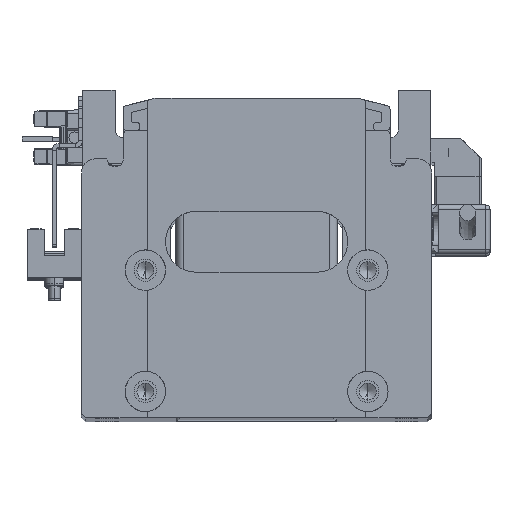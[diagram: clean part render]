
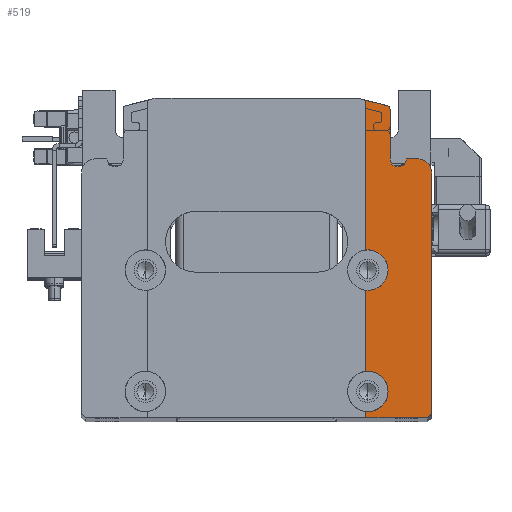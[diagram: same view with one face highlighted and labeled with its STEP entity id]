
A CAD part, top view. The second image highlights one B-rep face of the part: STEP entity #519.
In plain terms, the highlighted planar face has unit normal (0, 0, 1).
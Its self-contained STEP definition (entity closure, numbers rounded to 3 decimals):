
#58 = AXIS2_PLACEMENT_3D ( 'NONE', #4334, #8844, #48255 ) ;
#283 = EDGE_CURVE ( 'NONE', #11269, #33267, #20812, .T. ) ;
#519 = ADVANCED_FACE ( 'NONE', ( #33235 ), #15721, .F. ) ;
#633 = CARTESIAN_POINT ( 'NONE',  ( 43.3, -38.5, 12.5 ) ) ;
#1023 = DIRECTION ( 'NONE',  ( -1., 0., 0. ) ) ;
#1237 = VECTOR ( 'NONE', #45840, 1000. ) ;
#1294 = CARTESIAN_POINT ( 'NONE',  ( 32., 36.719, 12.5 ) ) ;
#1522 = DIRECTION ( 'NONE',  ( 0., -1., 0. ) ) ;
#1650 = DIRECTION ( 'NONE',  ( -1., 0., 0. ) ) ;
#1811 = ORIENTED_EDGE ( 'NONE', *, *, #34930, .T. ) ;
#1947 = EDGE_CURVE ( 'NONE', #22279, #42914, #5588, .T. ) ;
#2148 = VERTEX_POINT ( 'NONE', #43554 ) ;
#2240 = DIRECTION ( 'NONE',  ( -1., 0., 0. ) ) ;
#2391 = CARTESIAN_POINT ( 'NONE',  ( 32.5, -33., 12.5 ) ) ;
#2647 = CARTESIAN_POINT ( 'NONE',  ( 33., 36.719, 12.5 ) ) ;
#4020 = DIRECTION ( 'NONE',  ( -1., 0., 0. ) ) ;
#4110 = CARTESIAN_POINT ( 'NONE',  ( 27., 1.975, 12.5 ) ) ;
#4334 = CARTESIAN_POINT ( 'NONE',  ( 27.5, -33., 12.5 ) ) ;
#4340 = ORIENTED_EDGE ( 'NONE', *, *, #6725, .T. ) ;
#4563 = VERTEX_POINT ( 'NONE', #31346 ) ;
#4627 = LINE ( 'NONE', #49131, #15161 ) ;
#5392 = VERTEX_POINT ( 'NONE', #23417 ) ;
#5446 = ORIENTED_EDGE ( 'NONE', *, *, #10951, .T. ) ;
#5588 = CIRCLE ( 'NONE', #46323, 3.5 ) ;
#5861 = ORIENTED_EDGE ( 'NONE', *, *, #11873, .T. ) ;
#5972 = LINE ( 'NONE', #48731, #23322 ) ;
#6725 = EDGE_CURVE ( 'NONE', #47576, #38366, #37899, .T. ) ;
#6835 = LINE ( 'NONE', #18063, #1237 ) ;
#6996 = AXIS2_PLACEMENT_3D ( 'NONE', #11304, #27771, #4020 ) ;
#7586 = CARTESIAN_POINT ( 'NONE',  ( 26.243, 39.189, 12.5 ) ) ;
#7677 = AXIS2_PLACEMENT_3D ( 'NONE', #16063, #51466, #19491 ) ;
#8202 = CARTESIAN_POINT ( 'NONE',  ( 27., -7.975, 12.5 ) ) ;
#8306 = ORIENTED_EDGE ( 'NONE', *, *, #49246, .T. ) ;
#8844 = DIRECTION ( 'NONE',  ( 0., 0., -1. ) ) ;
#9078 = EDGE_CURVE ( 'NONE', #15879, #33977, #9756, .T. ) ;
#9756 = LINE ( 'NONE', #36135, #42107 ) ;
#9761 = CARTESIAN_POINT ( 'NONE',  ( 39.8, 21., 12.5 ) ) ;
#10045 = CARTESIAN_POINT ( 'NONE',  ( 27., 39.5, 12.5 ) ) ;
#10270 = EDGE_CURVE ( 'NONE', #15861, #11269, #31702, .T. ) ;
#10321 = EDGE_LOOP ( 'NONE', ( #5446, #28644, #33761, #19072, #42620, #19542, #44471, #23289, #47342, #4340, #5861, #1811, #17686, #8306, #37916, #32517, #36509 ) ) ;
#10951 = EDGE_CURVE ( 'NONE', #35365, #45240, #22998, .T. ) ;
#11220 = DIRECTION ( 'NONE',  ( 1., 0., 0. ) ) ;
#11269 = VERTEX_POINT ( 'NONE', #15478 ) ;
#11304 = CARTESIAN_POINT ( 'NONE',  ( 27.5, -3., 12.5 ) ) ;
#11749 = CARTESIAN_POINT ( 'NONE',  ( 43.3, -39.5, 12.5 ) ) ;
#11803 = VERTEX_POINT ( 'NONE', #50328 ) ;
#11873 = EDGE_CURVE ( 'NONE', #38366, #45787, #6835, .T. ) ;
#12341 = DIRECTION ( 'NONE',  ( 0., 0., -1. ) ) ;
#13147 = LINE ( 'NONE', #10045, #29263 ) ;
#13909 = AXIS2_PLACEMENT_3D ( 'NONE', #1294, #17311, #1650 ) ;
#13933 = EDGE_CURVE ( 'NONE', #2148, #35365, #16959, .T. ) ;
#14066 = DIRECTION ( 'NONE',  ( -1., 0., 0. ) ) ;
#15161 = VECTOR ( 'NONE', #1522, 1000. ) ;
#15478 = CARTESIAN_POINT ( 'NONE',  ( 32.5, -3., 12.5 ) ) ;
#15721 = PLANE ( 'NONE',  #44610 ) ;
#15861 = VERTEX_POINT ( 'NONE', #4110 ) ;
#15879 = VERTEX_POINT ( 'NONE', #47902 ) ;
#16063 = CARTESIAN_POINT ( 'NONE',  ( 27.5, -3., 12.5 ) ) ;
#16106 = DIRECTION ( 'NONE',  ( 0.707, 0.707, 0. ) ) ;
#16959 = CIRCLE ( 'NONE', #29108, 2. ) ;
#16982 = EDGE_CURVE ( 'NONE', #45240, #15879, #20991, .T. ) ;
#17311 = DIRECTION ( 'NONE',  ( 0., 0., 1. ) ) ;
#17686 = ORIENTED_EDGE ( 'NONE', *, *, #49157, .T. ) ;
#18063 = CARTESIAN_POINT ( 'NONE',  ( 27., 39.5, 12.5 ) ) ;
#19072 = ORIENTED_EDGE ( 'NONE', *, *, #46200, .T. ) ;
#19108 = CARTESIAN_POINT ( 'NONE',  ( 0., 24.5, 12.5 ) ) ;
#19491 = DIRECTION ( 'NONE',  ( -1., 0., 0. ) ) ;
#19542 = ORIENTED_EDGE ( 'NONE', *, *, #10270, .T. ) ;
#20545 = CARTESIAN_POINT ( 'NONE',  ( 33., 0., 12.5 ) ) ;
#20812 = CIRCLE ( 'NONE', #6996, 5. ) ;
#20991 = CIRCLE ( 'NONE', #13909, 1. ) ;
#22279 = VERTEX_POINT ( 'NONE', #45532 ) ;
#22757 = DIRECTION ( 'NONE',  ( -1., 0., 0. ) ) ;
#22907 = EDGE_CURVE ( 'NONE', #4563, #15861, #13147, .T. ) ;
#22998 = LINE ( 'NONE', #20545, #42330 ) ;
#23289 = ORIENTED_EDGE ( 'NONE', *, *, #44543, .T. ) ;
#23322 = VECTOR ( 'NONE', #32564, 1000. ) ;
#23417 = CARTESIAN_POINT ( 'NONE',  ( 42.3, -39.5, 12.5 ) ) ;
#23544 = VECTOR ( 'NONE', #11220, 1000. ) ;
#23999 = LINE ( 'NONE', #19108, #32741 ) ;
#24161 = AXIS2_PLACEMENT_3D ( 'NONE', #36951, #44812, #32963 ) ;
#24626 = CARTESIAN_POINT ( 'NONE',  ( 35., 24.5, 12.5 ) ) ;
#27771 = DIRECTION ( 'NONE',  ( 0., 0., -1. ) ) ;
#27844 = DIRECTION ( 'NONE',  ( -1., 0., 0. ) ) ;
#28070 = CARTESIAN_POINT ( 'NONE',  ( 39.8, 24.5, 12.5 ) ) ;
#28644 = ORIENTED_EDGE ( 'NONE', *, *, #16982, .T. ) ;
#28879 = VECTOR ( 'NONE', #16106, 1000. ) ;
#29108 = AXIS2_PLACEMENT_3D ( 'NONE', #24626, #12341, #1023 ) ;
#29263 = VECTOR ( 'NONE', #37466, 1000. ) ;
#30820 = CARTESIAN_POINT ( 'NONE',  ( 27., -28.025, 12.5 ) ) ;
#31346 = CARTESIAN_POINT ( 'NONE',  ( 27., 38.219, 12.5 ) ) ;
#31702 = CIRCLE ( 'NONE', #7677, 5. ) ;
#31949 = DIRECTION ( 'NONE',  ( -0.97, 0.243, 0. ) ) ;
#32227 = LINE ( 'NONE', #11749, #23544 ) ;
#32517 = ORIENTED_EDGE ( 'NONE', *, *, #51009, .T. ) ;
#32564 = DIRECTION ( 'NONE',  ( 0., 1., 0. ) ) ;
#32741 = VECTOR ( 'NONE', #22757, 1000. ) ;
#32963 = DIRECTION ( 'NONE',  ( -1., 0., 0. ) ) ;
#33235 = FACE_OUTER_BOUND ( 'NONE', #10321, .T. ) ;
#33267 = VERTEX_POINT ( 'NONE', #8202 ) ;
#33761 = ORIENTED_EDGE ( 'NONE', *, *, #9078, .T. ) ;
#33977 = VERTEX_POINT ( 'NONE', #7586 ) ;
#34794 = VERTEX_POINT ( 'NONE', #30820 ) ;
#34930 = EDGE_CURVE ( 'NONE', #45787, #5392, #32227, .T. ) ;
#35299 = DIRECTION ( 'NONE',  ( 0., 1., 0. ) ) ;
#35365 = VERTEX_POINT ( 'NONE', #51171 ) ;
#36135 = CARTESIAN_POINT ( 'NONE',  ( 10.765, 43.059, 12.5 ) ) ;
#36509 = ORIENTED_EDGE ( 'NONE', *, *, #13933, .T. ) ;
#36951 = CARTESIAN_POINT ( 'NONE',  ( 27.5, -33., 12.5 ) ) ;
#37186 = CARTESIAN_POINT ( 'NONE',  ( 27., -39.5, 12.5 ) ) ;
#37466 = DIRECTION ( 'NONE',  ( 0., -1., 0. ) ) ;
#37680 = CARTESIAN_POINT ( 'NONE',  ( 26., 38.219, 12.5 ) ) ;
#37899 = CIRCLE ( 'NONE', #24161, 5. ) ;
#37916 = ORIENTED_EDGE ( 'NONE', *, *, #1947, .T. ) ;
#38129 = EDGE_CURVE ( 'NONE', #34794, #47576, #42268, .T. ) ;
#38366 = VERTEX_POINT ( 'NONE', #41985 ) ;
#39381 = CIRCLE ( 'NONE', #47620, 1. ) ;
#41881 = DIRECTION ( 'NONE',  ( 0., 0., 1. ) ) ;
#41985 = CARTESIAN_POINT ( 'NONE',  ( 27., -37.975, 12.5 ) ) ;
#42107 = VECTOR ( 'NONE', #31949, 1000. ) ;
#42268 = CIRCLE ( 'NONE', #58, 5. ) ;
#42330 = VECTOR ( 'NONE', #35299, 1000. ) ;
#42620 = ORIENTED_EDGE ( 'NONE', *, *, #22907, .T. ) ;
#42914 = VERTEX_POINT ( 'NONE', #28070 ) ;
#43198 = CARTESIAN_POINT ( 'NONE',  ( 0., 0., 12.5 ) ) ;
#43553 = DIRECTION ( 'NONE',  ( 0., 0., -1. ) ) ;
#43554 = CARTESIAN_POINT ( 'NONE',  ( 37., 24.5, 12.5 ) ) ;
#44471 = ORIENTED_EDGE ( 'NONE', *, *, #283, .T. ) ;
#44543 = EDGE_CURVE ( 'NONE', #33267, #34794, #4627, .T. ) ;
#44610 = AXIS2_PLACEMENT_3D ( 'NONE', #43198, #43553, #27844 ) ;
#44812 = DIRECTION ( 'NONE',  ( 0., 0., -1. ) ) ;
#45240 = VERTEX_POINT ( 'NONE', #2647 ) ;
#45532 = CARTESIAN_POINT ( 'NONE',  ( 43.3, 21., 12.5 ) ) ;
#45787 = VERTEX_POINT ( 'NONE', #37186 ) ;
#45840 = DIRECTION ( 'NONE',  ( 0., -1., 0. ) ) ;
#45855 = DIRECTION ( 'NONE',  ( 0., 0., -1. ) ) ;
#46200 = EDGE_CURVE ( 'NONE', #33977, #4563, #39381, .T. ) ;
#46323 = AXIS2_PLACEMENT_3D ( 'NONE', #9761, #41881, #14066 ) ;
#47342 = ORIENTED_EDGE ( 'NONE', *, *, #38129, .T. ) ;
#47576 = VERTEX_POINT ( 'NONE', #2391 ) ;
#47620 = AXIS2_PLACEMENT_3D ( 'NONE', #37680, #45855, #2240 ) ;
#47902 = CARTESIAN_POINT ( 'NONE',  ( 32.243, 37.689, 12.5 ) ) ;
#48221 = LINE ( 'NONE', #633, #28879 ) ;
#48255 = DIRECTION ( 'NONE',  ( -1., 0., 0. ) ) ;
#48731 = CARTESIAN_POINT ( 'NONE',  ( 43.3, 39.5, 12.5 ) ) ;
#49131 = CARTESIAN_POINT ( 'NONE',  ( 27., 39.5, 12.5 ) ) ;
#49157 = EDGE_CURVE ( 'NONE', #5392, #11803, #48221, .T. ) ;
#49246 = EDGE_CURVE ( 'NONE', #11803, #22279, #5972, .T. ) ;
#50328 = CARTESIAN_POINT ( 'NONE',  ( 43.3, -38.5, 12.5 ) ) ;
#51009 = EDGE_CURVE ( 'NONE', #42914, #2148, #23999, .T. ) ;
#51171 = CARTESIAN_POINT ( 'NONE',  ( 33., 24.5, 12.5 ) ) ;
#51466 = DIRECTION ( 'NONE',  ( 0., 0., -1. ) ) ;
